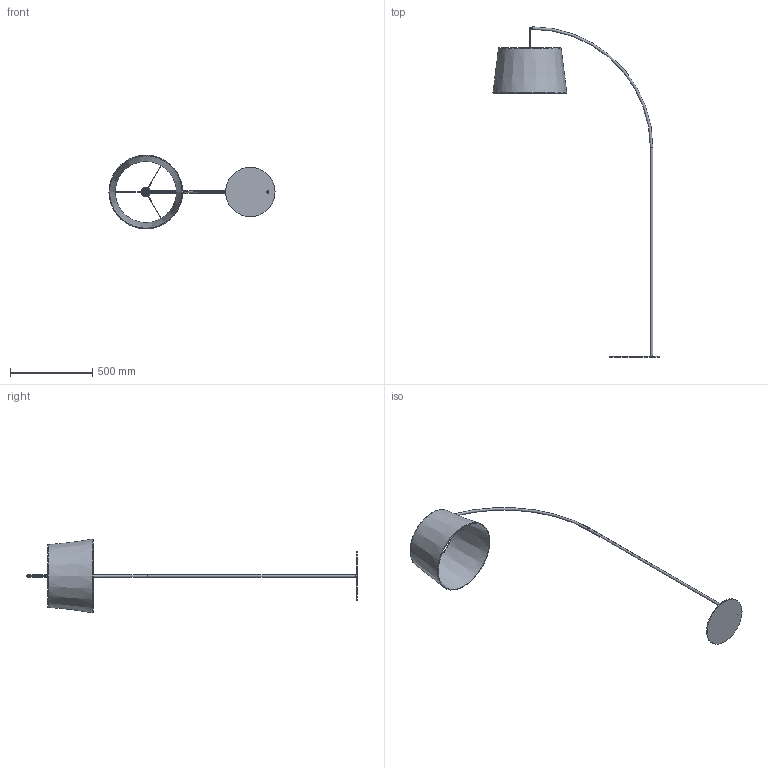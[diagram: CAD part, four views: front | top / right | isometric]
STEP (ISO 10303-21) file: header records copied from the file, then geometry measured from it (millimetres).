
FILE_DESCRIPTION(/* description */ (''),/* implementation_level */ '2;1');
FILE_NAME(/* name */ 'C:/Users/kubaw/OneDrive/Pulpit/Nowy folder/5075_HANG/5075_HANG v5.step',/* time_stamp */ '2021-03-13T09:53:44+01:00',/* author */ (''),/* organization */ (''),/* preprocessor_version */ 'ST-DEVELOPER v18.1',/* originating_system */ 'Autodesk Translation Framework v9.10.0.1330',/* authorisation */ '');
FILE_SCHEMA (('AUTOMOTIVE_DESIGN { 1 0 10303 214 3 1 1 }'));
Length unit declared in the file: millimetre
Products named in the file (2): 5075_HANG; MOCOWANIE_HANG
Assembly tree (1 placements, depth 2):
  5075_HANG
    MOCOWANIE_HANG
Bounding box: 1009.13 x 2007.5 x 448.2 mm (x, y, z)
Volume: 2252431.7 mm3; surface area: 1086049.6 mm2
Topology: 15 solids, 15 shells, 84 faces, 159 edges, 107 vertices
Faces by surface type: cylinder 31, plane 29, torus 9, cone 8, bspline 7
Full cylindrical faces by diameter (mm): 2 x6, 4 x2, 6.919 x1, 9 x1, 12.226 x1, 15 x1, 31 x1, 38.952 x10, 42 x1, 45 x1, 50 x1, 56 x1, 58 x1, 300 x1
Entity records: 8024 total; most frequent: CARTESIAN_POINT 6297, DIRECTION 347, ORIENTED_EDGE 318, EDGE_CURVE 159, AXIS2_PLACEMENT_3D 156, VERTEX_POINT 107, EDGE_LOOP 90, FACE_OUTER_BOUND 84
